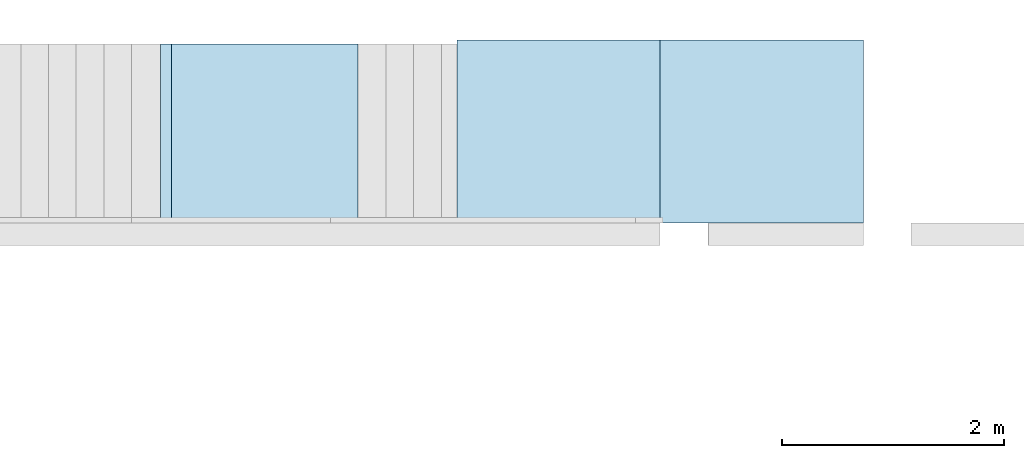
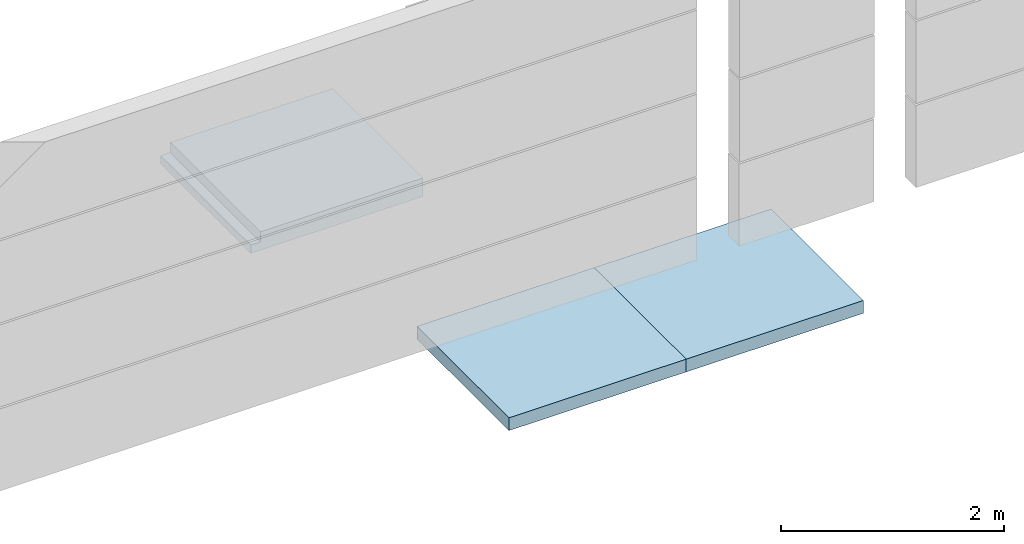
# One storey, part 2 of 5: 3 slabs, 1 element without a shape of its own.
"""IFC2X3 building model written with IfcOpenShell, lengths in millimetres."""

import ifcopenshell
import ifcopenshell.guid

model = None  # the IFC model being written
_history = None  # IfcOwnerHistory: only IFC2X3 demands one
_inside = {}  # id of a spatial element -> (the spatial element, [elements in it])
_under = {}  # id of a project, library or spatial element -> (it, [spatial elements below it])
_declared = {}  # id of a project -> (the project, [libraries it declares])
_typed = {}  # id of a type object -> (the type object, [elements of that type])
_made_of = {}  # id of a material, layer set ... -> (it, [elements and type objects made of it])


def new_model(schema):
    """Start an empty IFC model of exactly this schema.

    Asked for "IFC4X3", IfcOpenShell would pick the latest addendum, in which some entities
    have other attributes; the version numbers below select the first issue.
    IFC2X3 requires an IfcOwnerHistory on every rooted entity: one is made here for all.
    """
    global model, _history
    if schema == "IFC4X3":
        model = ifcopenshell.file(schema_version=(4, 3, 0, 0))
    else:
        model = ifcopenshell.file(schema=schema)
    _inside.clear()
    _under.clear()
    _declared.clear()
    _typed.clear()
    _made_of.clear()
    _history = None
    if model.schema == "IFC2X3":
        org = make("IfcOrganization", Name="unknown")
        user = make(
            "IfcPersonAndOrganization",
            ThePerson=make("IfcPerson", FamilyName="unknown"),
            TheOrganization=org,
        )
        app = make(
            "IfcApplication",
            ApplicationDeveloper=org,
            Version="unknown",
            ApplicationFullName="unknown",
            ApplicationIdentifier="unknown",
        )
        _history = make(
            "IfcOwnerHistory",
            OwningUser=user,
            OwningApplication=app,
            ChangeAction="ADDED",
            CreationDate=0,
        )
    return model


def make(cls, **values):
    """One entity of the class cls with the attributes given. An attribute that is None is left unset."""
    return model.create_entity(
        cls, **{name: value for name, value in values.items() if value is not None}
    )


def entity(cls, *values):
    """Any entity or typed value of the class cls, its attributes in the order of the schema. None: left unset."""
    e = model.create_entity(cls)
    for i, value in enumerate(values):
        if value is not None:
            e[i] = value
    return e


def rooted(cls, **values):
    """An entity with a GlobalId (a new one), such as an element, a storey or a relation."""
    return make(cls, GlobalId=ifcopenshell.guid.new(), OwnerHistory=_history, **values)


def si_unit(unit_type, name, prefix=None):
    """IfcSIUnit, for example si_unit("LENGTHUNIT", "METRE", prefix="MILLI")."""
    return make("IfcSIUnit", UnitType=unit_type, Prefix=prefix, Name=name)


def converted_unit(unit_type, name, factor, base, dimensions=None, offset=None):
    """IfcConversionBasedUnit, such as the inch: factor (a typed value) times the base unit."""
    return make(
        "IfcConversionBasedUnit"
        if offset is None
        else "IfcConversionBasedUnitWithOffset",
        ConversionOffset=offset,
        Dimensions=None
        if dimensions is None
        else entity("IfcDimensionalExponents", *dimensions),
        UnitType=unit_type,
        Name=name,
        ConversionFactor=make(
            "IfcMeasureWithUnit", ValueComponent=factor, UnitComponent=base
        ),
    )


def derived_unit(unit_type, elements):
    """IfcDerivedUnit: a product of units, each with its exponent."""
    return make(
        "IfcDerivedUnit",
        Elements=[
            make("IfcDerivedUnitElement", Unit=unit, Exponent=power)
            for unit, power in elements
        ],
        UnitType=unit_type,
    )


def assignment(units):
    """IfcUnitAssignment: the units of a project."""
    return None if units is None else make("IfcUnitAssignment", Units=units)


def point(xyz):
    """IfcCartesianPoint."""
    return None if xyz is None else make("IfcCartesianPoint", Coordinates=xyz)


def direction(xyz):
    """IfcDirection."""
    return None if xyz is None else make("IfcDirection", DirectionRatios=xyz)


def frame(location, z_axis=None, x_axis=None):
    """IfcAxis2Placement3D, a coordinate frame: its origin and axes. An axis left out is left unset."""
    return make(
        "IfcAxis2Placement3D",
        Location=point(location),
        Axis=direction(z_axis),
        RefDirection=direction(x_axis),
    )


def frame_2d(location, x_axis=None):
    """IfcAxis2Placement2D, a coordinate frame in the plane: its origin and x axis."""
    return make(
        "IfcAxis2Placement2D", Location=point(location), RefDirection=direction(x_axis)
    )


def origin():
    """The frame at (0, 0, 0) with its axes left unset."""
    return frame((0.0, 0.0, 0.0))


def origin_2d_with_axis():
    """The frame at (0, 0) in the plane with the x axis (1, 0) written out."""
    return frame_2d((0.0, 0.0), x_axis=(1.0, 0.0))


def place(relative_to, where):
    """IfcLocalPlacement: puts the frame where relative to a parent placement (None: the world)."""
    return make(
        "IfcLocalPlacement", PlacementRelTo=relative_to, RelativePlacement=where
    )


def context(
    kind, dimensions, precision=None, world=None, true_north=None, identifier=None
):
    """IfcGeometricRepresentationContext, for example the 3D "Model" context."""
    return make(
        "IfcGeometricRepresentationContext",
        ContextIdentifier=identifier,
        ContextType=kind,
        CoordinateSpaceDimension=dimensions,
        Precision=precision,
        WorldCoordinateSystem=world,
        TrueNorth=true_north,
    )


def subcontext(parent, identifier, kind, view, scale=None):
    """IfcGeometricRepresentationSubContext, for example "Body" below "Model"."""
    return make(
        "IfcGeometricRepresentationSubContext",
        ContextIdentifier=identifier,
        ContextType=kind,
        ParentContext=parent,
        TargetScale=scale,
        TargetView=view,
    )


def project(units=None, contexts=None):
    """IfcProject with its units and contexts."""
    return rooted(
        "IfcProject",
        Name="project",
        RepresentationContexts=contexts,
        UnitsInContext=assignment(units),
    )


def spatial(cls, under=None, at=None, **own):
    """A site, building, storey or space (cls), placed at a placement, below another one or the project."""
    s = rooted(cls, ObjectPlacement=at, **own)
    if under is not None:
        _under.setdefault(under.id(), (under, []))[1].append(s)
    return s


def polyline(points):
    """IfcPolyline through the points."""
    return make("IfcPolyline", Points=[point(p) for p in points])


def profile(cls, at=None, kind="AREA", **sizes):
    """A parametric profile (cls). Its sizes go by their IFC names, for example OverallWidth=200.0."""
    return make(cls, ProfileType=kind, Position=at, **sizes)


def rectangle(**sizes):
    """IfcRectangleProfileDef."""
    return profile("IfcRectangleProfileDef", **sizes)


def outline(outer, holes=None, kind="AREA"):
    """IfcArbitraryClosedProfileDef: a profile drawn as a closed curve; with holes, ...WithVoids."""
    if holes is None:
        return make("IfcArbitraryClosedProfileDef", ProfileType=kind, OuterCurve=outer)
    return make(
        "IfcArbitraryProfileDefWithVoids",
        ProfileType=kind,
        OuterCurve=outer,
        InnerCurves=holes,
    )


def extrude(swept, where, along, depth):
    """IfcExtrudedAreaSolid: the profile swept, set in the frame where, extruded along a direction by depth."""
    return make(
        "IfcExtrudedAreaSolid",
        SweptArea=swept,
        Position=where,
        ExtrudedDirection=direction(along),
        Depth=depth,
    )


def shape(context_of_items, identifier, shape_type, items):
    """IfcShapeRepresentation: the items that make up one representation, for example the "Body"."""
    return make(
        "IfcShapeRepresentation",
        ContextOfItems=context_of_items,
        RepresentationIdentifier=identifier,
        RepresentationType=shape_type,
        Items=items,
    )


def material(Name=None, Category=None):
    """IfcMaterial."""
    return make("IfcMaterial", Name=Name, Category=Category)


def layer(
    of_material, thickness, ventilated=None, Name=None, Category=None, Priority=None
):
    """IfcMaterialLayer: one layer of a wall or slab, of a material (None: an air gap)."""
    return make(
        "IfcMaterialLayer",
        Material=of_material,
        LayerThickness=thickness,
        IsVentilated=ventilated,
        Name=Name,
        Category=Category,
        Priority=Priority,
    )


def layer_set(layers, Name=None):
    """IfcMaterialLayerSet."""
    return make("IfcMaterialLayerSet", MaterialLayers=layers, LayerSetName=Name)


def layer_usage(for_layer_set, set_direction, sense, offset, extent=None):
    """IfcMaterialLayerSetUsage: how a layer set lies in its element."""
    return make(
        "IfcMaterialLayerSetUsage",
        ForLayerSet=for_layer_set,
        LayerSetDirection=set_direction,
        DirectionSense=sense,
        OffsetFromReferenceLine=offset,
        ReferenceExtent=extent,
    )


def made_of(thing, what):
    """Note that an element or type object is made of a material, layer set ...; save() writes the relation."""
    if what is not None:
        _made_of.setdefault(what.id(), (what, []))[1].append(thing)
    return thing


def type_object(cls, material=None, **own):
    """A type object (cls), such as IfcWallType, which elements share."""
    return made_of(rooted(cls, **own), material)


def element(
    cls,
    number,
    at=None,
    inside=None,
    cuts=None,
    type_object=None,
    material=None,
    context=None,
    identifier="Body",
    shape_type=None,
    held_by="IfcProductDefinitionShape",
    body=None,
    shapes=None,
    **own,
):
    """One element of the class cls, such as IfcWall. Its Tag is "e" and its number.

    at: its placement. inside: the storey or other place that contains it. cuts: it is an
    opening in that element (IfcRelVoidsElement). A single representation is given by context,
    identifier, shape_type and body (its items); several are given by shapes. held_by: the class
    of the entity that holds the representations. save() writes the other relations.
    """
    e = rooted(cls, Tag="e%d" % number, ObjectPlacement=at, **own)
    if body is not None:
        shapes = [shape(context, identifier, shape_type, body)]
    if shapes is not None:
        e.Representation = make(held_by, Representations=shapes)
    if inside is not None:
        _inside.setdefault(inside.id(), (inside, []))[1].append(e)
    if cuts is not None:
        rooted(
            "IfcRelVoidsElement", RelatingBuildingElement=cuts, RelatedOpeningElement=e
        )
    if type_object is not None:
        _typed.setdefault(type_object.id(), (type_object, []))[1].append(e)
    return made_of(e, material)


def aggregate(whole, parts):
    """IfcRelAggregates: a whole, such as a stair, and the parts it consists of."""
    return rooted("IfcRelAggregates", RelatingObject=whole, RelatedObjects=parts)


def save(model, path):
    """Write the relations noted so far, then the file.

    IfcRelAggregates (storeys below a building ...), IfcRelContainedInSpatialStructure (elements
    in a storey), IfcRelDefinesByType, IfcRelAssociatesMaterial and IfcRelDeclares: one each for
    every whole, place, type object, material and project.
    """
    for whole, parts in _under.values():
        aggregate(whole, parts)
    for where, things in _inside.values():
        rooted(
            "IfcRelContainedInSpatialStructure",
            RelatedElements=things,
            RelatingStructure=where,
        )
    for kind, things in _typed.values():
        rooted("IfcRelDefinesByType", RelatedObjects=things, RelatingType=kind)
    for what, things in _made_of.values():
        rooted("IfcRelAssociatesMaterial", RelatedObjects=things, RelatingMaterial=what)
    for by, libraries in _declared.values():
        rooted("IfcRelDeclares", RelatingContext=by, RelatedDefinitions=libraries)
    model.write(path)


model = new_model("IFC2X3")

# Units and contexts
model_context = context("Model", 3, precision=0.01, world=origin(), true_north=direction((6.12303176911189e-17, 1.0)))
body_context = subcontext(model_context, "Body", "Model", "MODEL_VIEW")
ifc_project = project(units=[si_unit("LENGTHUNIT", "METRE", prefix="MILLI"), si_unit("AREAUNIT", "SQUARE_METRE"), si_unit("VOLUMEUNIT", "CUBIC_METRE"), converted_unit("PLANEANGLEUNIT", "DEGREE", entity("IfcRatioMeasure", 0.0174532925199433), si_unit("PLANEANGLEUNIT", "RADIAN"), dimensions=[0, 0, 0, 0, 0, 0, 0]), si_unit("MASSUNIT", "GRAM", prefix="KILO"), derived_unit("MASSDENSITYUNIT", [(si_unit("MASSUNIT", "GRAM", prefix="KILO"), 1), (si_unit("LENGTHUNIT", "METRE"), -3)]), derived_unit("MOMENTOFINERTIAUNIT", [(si_unit("LENGTHUNIT", "METRE"), 4)]), si_unit("TIMEUNIT", "SECOND"), si_unit("FREQUENCYUNIT", "HERTZ"), si_unit("THERMODYNAMICTEMPERATUREUNIT", "DEGREE_CELSIUS"), derived_unit("THERMALTRANSMITTANCEUNIT", [(si_unit("MASSUNIT", "GRAM", prefix="KILO"), 1), (si_unit("THERMODYNAMICTEMPERATUREUNIT", "KELVIN"), -1), (si_unit("TIMEUNIT", "SECOND"), -3)]), derived_unit("VOLUMETRICFLOWRATEUNIT", [(si_unit("LENGTHUNIT", "METRE"), 3), (si_unit("TIMEUNIT", "SECOND"), -1)]), si_unit("ELECTRICCURRENTUNIT", "AMPERE"), si_unit("ELECTRICVOLTAGEUNIT", "VOLT"), si_unit("POWERUNIT", "WATT"), si_unit("FORCEUNIT", "NEWTON", prefix="KILO"), si_unit("ILLUMINANCEUNIT", "LUX"), si_unit("LUMINOUSFLUXUNIT", "LUMEN"), si_unit("LUMINOUSINTENSITYUNIT", "CANDELA"), derived_unit("USERDEFINED", [(si_unit("MASSUNIT", "GRAM", prefix="KILO"), -1), (si_unit("LENGTHUNIT", "METRE"), -2), (si_unit("TIMEUNIT", "SECOND"), 3), (si_unit("LUMINOUSFLUXUNIT", "LUMEN"), 1)]), derived_unit("LINEARVELOCITYUNIT", [(si_unit("LENGTHUNIT", "METRE"), 1), (si_unit("TIMEUNIT", "SECOND"), -1)]), si_unit("PRESSUREUNIT", "PASCAL"), derived_unit("USERDEFINED", [(si_unit("LENGTHUNIT", "METRE"), -2), (si_unit("MASSUNIT", "GRAM", prefix="KILO"), 1), (si_unit("TIMEUNIT", "SECOND"), -2)]), derived_unit("LINEARFORCEUNIT", [(si_unit("MASSUNIT", "GRAM", prefix="KILO"), 1), (si_unit("LENGTHUNIT", "METRE"), 1), (si_unit("TIMEUNIT", "SECOND"), -2), (si_unit("LENGTHUNIT", "METRE"), -1)]), derived_unit("PLANARFORCEUNIT", [(si_unit("MASSUNIT", "GRAM", prefix="KILO"), 1), (si_unit("LENGTHUNIT", "METRE"), 1), (si_unit("TIMEUNIT", "SECOND"), -2), (si_unit("LENGTHUNIT", "METRE"), -2)])], contexts=[model_context])

# Site, building, storey
site_placement = place(None, frame((10627.5135316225, 21939.0796949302, 0.0)))
site = spatial("IfcSite", under=ifc_project, at=site_placement, Name="Default", CompositionType="ELEMENT")
building_placement = place(site_placement, origin())
building = spatial("IfcBuilding", under=site, at=building_placement, CompositionType="ELEMENT")
storey_placement = place(building_placement, origin())
storey = spatial("IfcBuildingStorey", under=building, at=storey_placement, Name="RDC", CompositionType="ELEMENT", Elevation=0.0)

# Stair, slab
stair_placement = place(storey_placement, origin())
stair = element("IfcStair", 1, at=stair_placement, inside=storey, Name="Precast Stair:Stair", ObjectType="Precast Stair:Precast_Stair", ShapeType="TWO_STRAIGHT_RUN_STAIR")
ifc_material_1 = material(Name="Concrete, Cast-in-Place gray")
slab_type_1 = type_object("IfcSlabType", Name="Monolithic Landing:200mm_Thickness", PredefinedType="LANDING")
slab_1_placement = place(stair_placement, origin())
slab_1 = element("IfcSlab", 2, at=slab_1_placement, type_object=slab_type_1, material=ifc_material_1, Name="Precast Stair:Stair:490853 Landing 1", ObjectType="Monolithic Landing:200mm_Thickness", PredefinedType="LANDING", context=body_context, shape_type="SweptSolid", body=[
    extrude(rectangle(XDim=1614.99999999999, YDim=1680.0, at=frame_2d((1.08002495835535e-12, 0.0), x_axis=(1.0, 0.0))), frame((-4022.51353162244, 17503.4203050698, 1901.41379310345), z_axis=(0.0, 0.0, 1.0), x_axis=(0.0, -1.0, 0.0)), (0.0, 0.0, 1.0), 1.00000000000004),
    extrude(outline(polyline([(-1153.33333333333, -96.6666666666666), (626.666666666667, -96.6666666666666), (626.666666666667, -6.6666666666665), (526.666666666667, -6.6666666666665), (526.666666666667, 103.333333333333), (-1153.33333333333, 103.333333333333), (-1153.33333333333, -96.6666666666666)])), frame((-4335.84686495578, 16695.9203050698, 1798.08045977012), z_axis=(0.0, 1.0, 0.0), x_axis=(-1.0, 0.0, 0.0)), (0.0, 0.0, 1.0), 1614.99999999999),
])
aggregate(stair, [slab_1])

# Slabs
ifc_material_2 = material(Name="Concrete, Cast-in-Place - C15")
ifc_layer = layer(ifc_material_2, 140.0)
ifc_layer_set = layer_set([ifc_layer], Name="Floor:Plancher S/SOL Fille 0-1 140mm")
ifc_layer_usage_1 = layer_usage(ifc_layer_set, "AXIS3", "POSITIVE", 0.0)
slab_type_2 = type_object("IfcSlabType", Name="Floor:Plancher S/SOL Fille 0-1 140mm", PredefinedType="FLOOR", material=ifc_layer_set)
slab_2_placement = place(storey_placement, origin())
element("IfcSlab", 3, at=slab_2_placement, inside=storey, type_object=slab_type_2, material=ifc_layer_usage_1, Name="Floor:Plancher S/SOL Fille 0-1 140mm", ObjectType="Floor:Plancher S/SOL Fille 0-1 140mm", PredefinedType="FLOOR", context=body_context, shape_type="SweptSolid", body=[
    extrude(rectangle(XDim=1650.00000000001, YDim=1832.0, at=origin_2d_with_axis()), frame((-1376.51353162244, 17520.9203050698, -1030.0), z_axis=(0.0, 0.0, -1.0), x_axis=(0.0, 1.0, 0.0)), (0.0, 0.0, 1.0), 140.0),
])
ifc_layer_usage_2 = layer_usage(ifc_layer_set, "AXIS3", "POSITIVE", 0.0)
slab_type_3 = type_object("IfcSlabType", Name="Floor:Plancher S/SOL Fille 0-1 140mm", PredefinedType="FLOOR", material=ifc_layer_set)
slab_3_placement = place(storey_placement, origin())
element("IfcSlab", 4, at=slab_3_placement, inside=storey, type_object=slab_type_3, material=ifc_layer_usage_2, Name="Floor:Plancher S/SOL Fille 0-1 140mm", ObjectType="Floor:Plancher S/SOL Fille 0-1 140mm", PredefinedType="FLOOR", context=body_context, shape_type="SweptSolid", body=[
    extrude(rectangle(XDim=1650.00000000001, YDim=1832.0, at=origin_2d_with_axis()), frame((455.486468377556, 17520.9203050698, -1030.0), z_axis=(0.0, 0.0, -1.0), x_axis=(0.0, 1.0, 0.0)), (0.0, 0.0, 1.0), 140.0),
])

save(model, "model.ifc")
